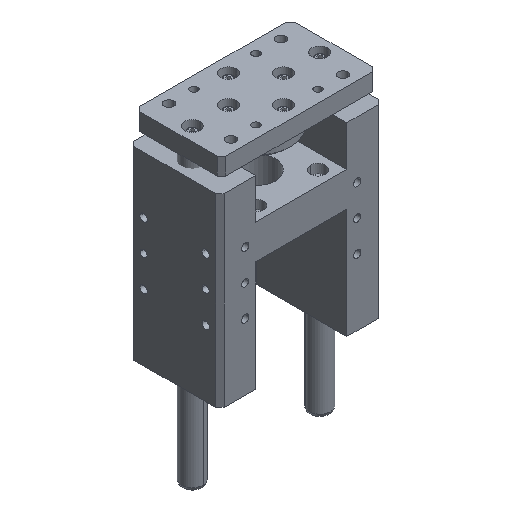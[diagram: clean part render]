
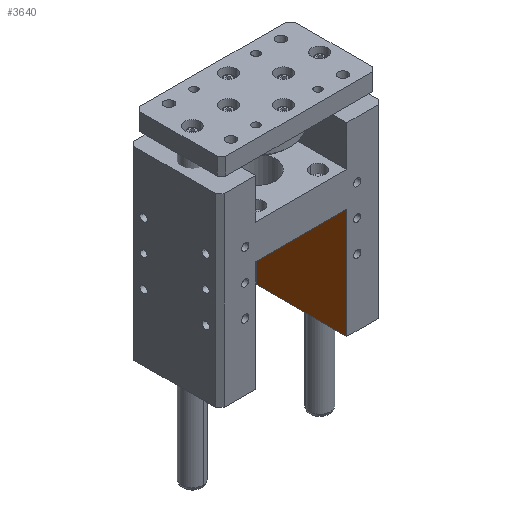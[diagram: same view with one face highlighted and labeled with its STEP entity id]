
A CAD part, isometric view. The second image highlights one B-rep face of the part: STEP entity #3640.
In plain terms, the highlighted planar face has unit normal (-1, 0, 0).
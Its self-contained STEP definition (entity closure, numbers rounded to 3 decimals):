
#991 = EDGE_CURVE ( 'NONE', #18137, #19216, #17378, .T. ) ;
#1321 = VECTOR ( 'NONE', #5721, 1000. ) ;
#1397 = CARTESIAN_POINT ( 'NONE',  ( 53., -52.5, -40. ) ) ;
#2632 = VECTOR ( 'NONE', #15321, 1000. ) ;
#2908 = LINE ( 'NONE', #15021, #21393 ) ;
#3287 = EDGE_LOOP ( 'NONE', ( #14624, #22849, #14272, #11791 ) ) ;
#3640 = ADVANCED_FACE ( 'NONE', ( #21329 ), #12602, .F. ) ;
#3774 = LINE ( 'NONE', #5452, #21912 ) ;
#4245 = CARTESIAN_POINT ( 'NONE',  ( 53., 52.5, -40. ) ) ;
#4504 = DIRECTION ( 'NONE',  ( 0., -1., 0. ) ) ;
#4678 = DIRECTION ( 'NONE',  ( 1., 0., 0. ) ) ;
#4893 = CARTESIAN_POINT ( 'NONE',  ( 53., -52.5, -168. ) ) ;
#5198 = CARTESIAN_POINT ( 'NONE',  ( 53., 52.5, -40. ) ) ;
#5452 = CARTESIAN_POINT ( 'NONE',  ( 53., -52.5, -168. ) ) ;
#5721 = DIRECTION ( 'NONE',  ( 0., 0., 1. ) ) ;
#7998 = VERTEX_POINT ( 'NONE', #15483 ) ;
#8509 = EDGE_CURVE ( 'NONE', #7998, #18137, #2908, .T. ) ;
#9536 = LINE ( 'NONE', #21956, #1321 ) ;
#9806 = DIRECTION ( 'NONE',  ( 0., 0., 1. ) ) ;
#10269 = EDGE_CURVE ( 'NONE', #7998, #24657, #3774, .T. ) ;
#11791 = ORIENTED_EDGE ( 'NONE', *, *, #19291, .T. ) ;
#12602 = PLANE ( 'NONE',  #23394 ) ;
#14272 = ORIENTED_EDGE ( 'NONE', *, *, #10269, .T. ) ;
#14624 = ORIENTED_EDGE ( 'NONE', *, *, #991, .F. ) ;
#15021 = CARTESIAN_POINT ( 'NONE',  ( 53., 52.5, -168. ) ) ;
#15321 = DIRECTION ( 'NONE',  ( 0., -1., 0. ) ) ;
#15483 = CARTESIAN_POINT ( 'NONE',  ( 53., 52.5, -168. ) ) ;
#16480 = CARTESIAN_POINT ( 'NONE',  ( 53., 52.5, -168. ) ) ;
#17378 = LINE ( 'NONE', #5198, #2632 ) ;
#18137 = VERTEX_POINT ( 'NONE', #4245 ) ;
#19216 = VERTEX_POINT ( 'NONE', #1397 ) ;
#19291 = EDGE_CURVE ( 'NONE', #24657, #19216, #9536, .T. ) ;
#19516 = DIRECTION ( 'NONE',  ( 0., -1., 0. ) ) ;
#21329 = FACE_OUTER_BOUND ( 'NONE', #3287, .T. ) ;
#21393 = VECTOR ( 'NONE', #9806, 1000. ) ;
#21912 = VECTOR ( 'NONE', #19516, 1000. ) ;
#21956 = CARTESIAN_POINT ( 'NONE',  ( 53., -52.5, -168. ) ) ;
#22849 = ORIENTED_EDGE ( 'NONE', *, *, #8509, .F. ) ;
#23394 = AXIS2_PLACEMENT_3D ( 'NONE', #16480, #4678, #4504 ) ;
#24657 = VERTEX_POINT ( 'NONE', #4893 ) ;
